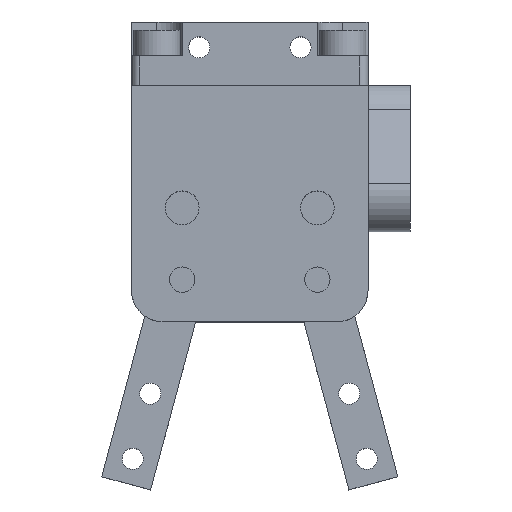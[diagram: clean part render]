
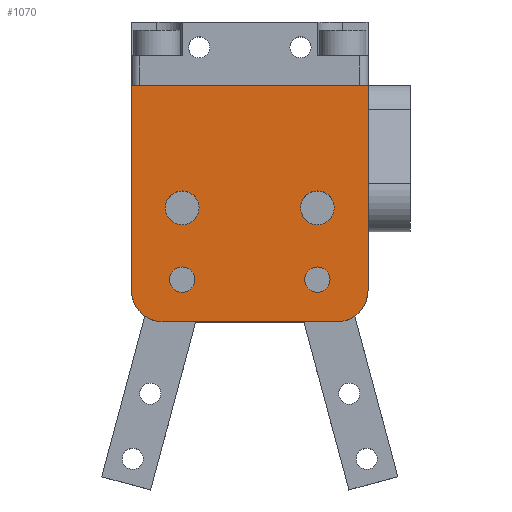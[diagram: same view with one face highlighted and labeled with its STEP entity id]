
A CAD part, top view. The second image highlights one B-rep face of the part: STEP entity #1070.
In plain terms, the highlighted planar face has unit normal (0, 0, 1).
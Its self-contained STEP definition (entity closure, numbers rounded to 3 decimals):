
#5 = DIRECTION ( 'NONE',  ( 0., 0., 1. ) ) ;
#22 = DIRECTION ( 'NONE',  ( 0., 0., 1. ) ) ;
#33 = EDGE_CURVE ( 'NONE', #3733, #4154, #627, .T. ) ;
#98 = EDGE_CURVE ( 'NONE', #2617, #2473, #3563, .T. ) ;
#184 = FACE_OUTER_BOUND ( 'NONE', #4670, .T. ) ;
#308 = AXIS2_PLACEMENT_3D ( 'NONE', #2942, #22, #2599 ) ;
#318 = CARTESIAN_POINT ( 'NONE',  ( 14., 28., 9.5 ) ) ;
#353 = DIRECTION ( 'NONE',  ( 1., 0., 0. ) ) ;
#385 = AXIS2_PLACEMENT_3D ( 'NONE', #4342, #2087, #3617 ) ;
#475 = AXIS2_PLACEMENT_3D ( 'NONE', #3349, #4459, #353 ) ;
#485 = DIRECTION ( 'NONE',  ( 1., 0., 0. ) ) ;
#514 = VERTEX_POINT ( 'NONE', #4188 ) ;
#627 = LINE ( 'NONE', #4237, #4002 ) ;
#705 = VECTOR ( 'NONE', #2962, 1000. ) ;
#778 = ORIENTED_EDGE ( 'NONE', *, *, #2989, .T. ) ;
#780 = EDGE_LOOP ( 'NONE', ( #2067 ) ) ;
#835 = VERTEX_POINT ( 'NONE', #4448 ) ;
#852 = VECTOR ( 'NONE', #2687, 1000. ) ;
#949 = EDGE_LOOP ( 'NONE', ( #2893 ) ) ;
#964 = EDGE_LOOP ( 'NONE', ( #4052 ) ) ;
#1020 = CARTESIAN_POINT ( 'NONE',  ( 10.25, 0., 9.5 ) ) ;
#1070 = ADVANCED_FACE ( 'NONE', ( #1253, #3888, #2772, #4282, #184 ), #4303, .T. ) ;
#1139 = CARTESIAN_POINT ( 'NONE',  ( 14., 3.75, 9.5 ) ) ;
#1162 = AXIS2_PLACEMENT_3D ( 'NONE', #1596, #3802, #485 ) ;
#1183 = CARTESIAN_POINT ( 'NONE',  ( 10.25, 0., 9.5 ) ) ;
#1191 = ORIENTED_EDGE ( 'NONE', *, *, #98, .T. ) ;
#1250 = CIRCLE ( 'NONE', #385, 2. ) ;
#1253 = FACE_BOUND ( 'NONE', #2188, .T. ) ;
#1322 = AXIS2_PLACEMENT_3D ( 'NONE', #4176, #5, #4126 ) ;
#1352 = CARTESIAN_POINT ( 'NONE',  ( 10., 13.5, 9.5 ) ) ;
#1380 = DIRECTION ( 'NONE',  ( -1., 0., 0. ) ) ;
#1481 = CIRCLE ( 'NONE', #1322, 3.75 ) ;
#1596 = CARTESIAN_POINT ( 'NONE',  ( -8., 5., 9.5 ) ) ;
#1648 = LINE ( 'NONE', #4241, #852 ) ;
#1711 = VERTEX_POINT ( 'NONE', #2702 ) ;
#1748 = EDGE_CURVE ( 'NONE', #4154, #2821, #1648, .T. ) ;
#1812 = EDGE_CURVE ( 'NONE', #1711, #1711, #4180, .T. ) ;
#1828 = CARTESIAN_POINT ( 'NONE',  ( -14., 28., 9.5 ) ) ;
#1892 = EDGE_CURVE ( 'NONE', #514, #514, #2171, .T. ) ;
#2013 = CARTESIAN_POINT ( 'NONE',  ( -14., 3.75, 9.5 ) ) ;
#2067 = ORIENTED_EDGE ( 'NONE', *, *, #1812, .F. ) ;
#2070 = CARTESIAN_POINT ( 'NONE',  ( 10.25, 3.75, 9.5 ) ) ;
#2087 = DIRECTION ( 'NONE',  ( 0., 0., 1. ) ) ;
#2171 = CIRCLE ( 'NONE', #3559, 1.5 ) ;
#2188 = EDGE_LOOP ( 'NONE', ( #2845 ) ) ;
#2301 = CARTESIAN_POINT ( 'NONE',  ( 14., 28., 9.5 ) ) ;
#2473 = VERTEX_POINT ( 'NONE', #1183 ) ;
#2599 = DIRECTION ( 'NONE',  ( 1., 0., 0. ) ) ;
#2617 = VERTEX_POINT ( 'NONE', #3622 ) ;
#2660 = EDGE_CURVE ( 'NONE', #2821, #2617, #1481, .T. ) ;
#2687 = DIRECTION ( 'NONE',  ( 0., -1., 0. ) ) ;
#2702 = CARTESIAN_POINT ( 'NONE',  ( -6.5, 5., 9.5 ) ) ;
#2728 = DIRECTION ( 'NONE',  ( 0., 0., 1. ) ) ;
#2749 = DIRECTION ( 'NONE',  ( 1., 0., 0. ) ) ;
#2772 = FACE_BOUND ( 'NONE', #780, .T. ) ;
#2821 = VERTEX_POINT ( 'NONE', #2013 ) ;
#2845 = ORIENTED_EDGE ( 'NONE', *, *, #2957, .F. ) ;
#2893 = ORIENTED_EDGE ( 'NONE', *, *, #4494, .F. ) ;
#2910 = CARTESIAN_POINT ( 'NONE',  ( 8., 5., 9.5 ) ) ;
#2942 = CARTESIAN_POINT ( 'NONE',  ( 10.25, 3.75, 9.5 ) ) ;
#2957 = EDGE_CURVE ( 'NONE', #4705, #4705, #1250, .T. ) ;
#2962 = DIRECTION ( 'NONE',  ( 0., 1., 0. ) ) ;
#2989 = EDGE_CURVE ( 'NONE', #3057, #3733, #4456, .T. ) ;
#3042 = CIRCLE ( 'NONE', #475, 2. ) ;
#3057 = VERTEX_POINT ( 'NONE', #1139 ) ;
#3349 = CARTESIAN_POINT ( 'NONE',  ( -8., 13.5, 9.5 ) ) ;
#3451 = ORIENTED_EDGE ( 'NONE', *, *, #4556, .T. ) ;
#3559 = AXIS2_PLACEMENT_3D ( 'NONE', #2910, #4366, #3566 ) ;
#3563 = LINE ( 'NONE', #1020, #4768 ) ;
#3566 = DIRECTION ( 'NONE',  ( 1., 0., 0. ) ) ;
#3617 = DIRECTION ( 'NONE',  ( 1., 0., 0. ) ) ;
#3622 = CARTESIAN_POINT ( 'NONE',  ( -10.25, 0., 9.5 ) ) ;
#3657 = CIRCLE ( 'NONE', #308, 3.75 ) ;
#3733 = VERTEX_POINT ( 'NONE', #318 ) ;
#3802 = DIRECTION ( 'NONE',  ( 0., 0., 1. ) ) ;
#3888 = FACE_BOUND ( 'NONE', #949, .T. ) ;
#4002 = VECTOR ( 'NONE', #1380, 1000. ) ;
#4052 = ORIENTED_EDGE ( 'NONE', *, *, #1892, .F. ) ;
#4126 = DIRECTION ( 'NONE',  ( -1., 0., 0. ) ) ;
#4154 = VERTEX_POINT ( 'NONE', #1828 ) ;
#4176 = CARTESIAN_POINT ( 'NONE',  ( -10.25, 3.75, 9.5 ) ) ;
#4180 = CIRCLE ( 'NONE', #1162, 1.5 ) ;
#4188 = CARTESIAN_POINT ( 'NONE',  ( 9.5, 5., 9.5 ) ) ;
#4237 = CARTESIAN_POINT ( 'NONE',  ( -14., 28., 9.5 ) ) ;
#4241 = CARTESIAN_POINT ( 'NONE',  ( -14., 3.75, 9.5 ) ) ;
#4282 = FACE_BOUND ( 'NONE', #964, .T. ) ;
#4303 = PLANE ( 'NONE',  #4619 ) ;
#4342 = CARTESIAN_POINT ( 'NONE',  ( 8., 13.5, 9.5 ) ) ;
#4366 = DIRECTION ( 'NONE',  ( 0., 0., 1. ) ) ;
#4447 = ORIENTED_EDGE ( 'NONE', *, *, #33, .T. ) ;
#4448 = CARTESIAN_POINT ( 'NONE',  ( -6., 13.5, 9.5 ) ) ;
#4456 = LINE ( 'NONE', #2301, #705 ) ;
#4459 = DIRECTION ( 'NONE',  ( 0., 0., 1. ) ) ;
#4494 = EDGE_CURVE ( 'NONE', #835, #835, #3042, .T. ) ;
#4556 = EDGE_CURVE ( 'NONE', #2473, #3057, #3657, .T. ) ;
#4619 = AXIS2_PLACEMENT_3D ( 'NONE', #2070, #2728, #2749 ) ;
#4644 = DIRECTION ( 'NONE',  ( 1., 0., 0. ) ) ;
#4656 = ORIENTED_EDGE ( 'NONE', *, *, #1748, .T. ) ;
#4670 = EDGE_LOOP ( 'NONE', ( #4447, #4656, #4704, #1191, #3451, #778 ) ) ;
#4704 = ORIENTED_EDGE ( 'NONE', *, *, #2660, .T. ) ;
#4705 = VERTEX_POINT ( 'NONE', #1352 ) ;
#4768 = VECTOR ( 'NONE', #4644, 1000. ) ;
